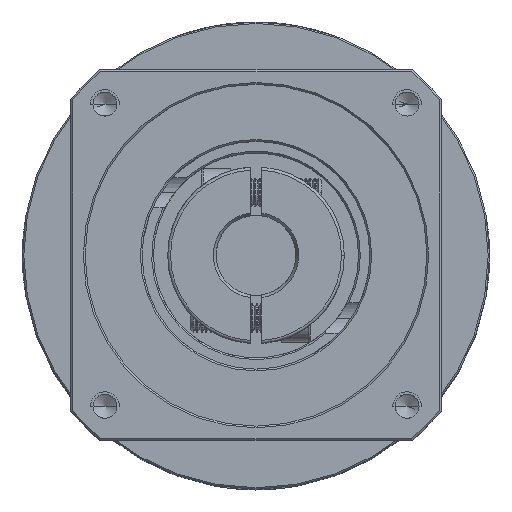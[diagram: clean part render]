
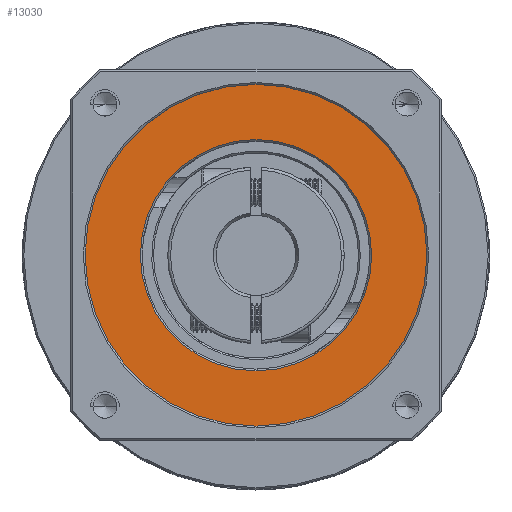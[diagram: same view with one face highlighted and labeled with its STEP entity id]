
A CAD part, top view. The second image highlights one B-rep face of the part: STEP entity #13030.
In plain terms, the highlighted planar face has unit normal (0, 0, 1).
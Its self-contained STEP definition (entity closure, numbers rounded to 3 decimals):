
#933 = CARTESIAN_POINT ( 'NONE',  ( -43.632, 8.885, 27.837 ) ) ;
#3530 = CARTESIAN_POINT ( 'NONE',  ( -103.632, 8.885, 27.837 ) ) ;
#4596 = CARTESIAN_POINT ( 'NONE',  ( -93.932, 8.885, 27.837 ) ) ;
#6535 = EDGE_CURVE ( 'NONE', #8976, #73836, #7130, .T. ) ;
#7122 = ORIENTED_EDGE ( 'NONE', *, *, #14670, .T. ) ;
#7130 = CIRCLE ( 'NONE', #79555, 30. ) ;
#8614 = VERTEX_POINT ( 'NONE', #4596 ) ;
#8976 = VERTEX_POINT ( 'NONE', #933 ) ;
#9481 = CIRCLE ( 'NONE', #76075, 20.3 ) ;
#11234 = CARTESIAN_POINT ( 'NONE',  ( -73.632, 8.885, 27.837 ) ) ;
#11619 = CARTESIAN_POINT ( 'NONE',  ( -53.332, 8.885, 27.837 ) ) ;
#13030 = ADVANCED_FACE ( 'NONE', ( #26061, #130280 ), #106414, .T. ) ;
#14670 = EDGE_CURVE ( 'NONE', #8614, #79927, #87319, .T. ) ;
#16590 = CARTESIAN_POINT ( 'NONE',  ( -73.632, 8.885, 27.837 ) ) ;
#17249 = CARTESIAN_POINT ( 'NONE',  ( -73.632, 8.885, 27.837 ) ) ;
#21411 = DIRECTION ( 'NONE',  ( 1., 0., 0. ) ) ;
#26061 = FACE_BOUND ( 'NONE', #120460, .T. ) ;
#26791 = DIRECTION ( 'NONE',  ( 1., 0., 0. ) ) ;
#27450 = DIRECTION ( 'NONE',  ( 1., 0., 0. ) ) ;
#30496 = AXIS2_PLACEMENT_3D ( 'NONE', #16590, #87453, #26791 ) ;
#35418 = DIRECTION ( 'NONE',  ( 0., 0., -1. ) ) ;
#43998 = CIRCLE ( 'NONE', #45203, 30. ) ;
#45203 = AXIS2_PLACEMENT_3D ( 'NONE', #11234, #82102, #21411 ) ;
#46129 = CARTESIAN_POINT ( 'NONE',  ( -73.632, 8.885, 27.837 ) ) ;
#56221 = ORIENTED_EDGE ( 'NONE', *, *, #6535, .T. ) ;
#56298 = DIRECTION ( 'NONE',  ( 1., 0., 0. ) ) ;
#63006 = EDGE_LOOP ( 'NONE', ( #56221, #81481 ) ) ;
#70097 = AXIS2_PLACEMENT_3D ( 'NONE', #46129, #116763, #56298 ) ;
#73836 = VERTEX_POINT ( 'NONE', #3530 ) ;
#74850 = EDGE_CURVE ( 'NONE', #79927, #8614, #9481, .T. ) ;
#76075 = AXIS2_PLACEMENT_3D ( 'NONE', #96034, #35418, #106132 ) ;
#79555 = AXIS2_PLACEMENT_3D ( 'NONE', #17249, #88103, #27450 ) ;
#79927 = VERTEX_POINT ( 'NONE', #11619 ) ;
#81481 = ORIENTED_EDGE ( 'NONE', *, *, #82180, .T. ) ;
#82102 = DIRECTION ( 'NONE',  ( 0., 0., 1. ) ) ;
#82180 = EDGE_CURVE ( 'NONE', #73836, #8976, #43998, .T. ) ;
#87319 = CIRCLE ( 'NONE', #70097, 20.3 ) ;
#87453 = DIRECTION ( 'NONE',  ( 0., 0., 1. ) ) ;
#88103 = DIRECTION ( 'NONE',  ( 0., 0., 1. ) ) ;
#96034 = CARTESIAN_POINT ( 'NONE',  ( -73.632, 8.885, 27.837 ) ) ;
#106132 = DIRECTION ( 'NONE',  ( 1., 0., 0. ) ) ;
#106414 = PLANE ( 'NONE',  #30496 ) ;
#116763 = DIRECTION ( 'NONE',  ( 0., 0., -1. ) ) ;
#120460 = EDGE_LOOP ( 'NONE', ( #127356, #7122 ) ) ;
#127356 = ORIENTED_EDGE ( 'NONE', *, *, #74850, .T. ) ;
#130280 = FACE_OUTER_BOUND ( 'NONE', #63006, .T. ) ;
